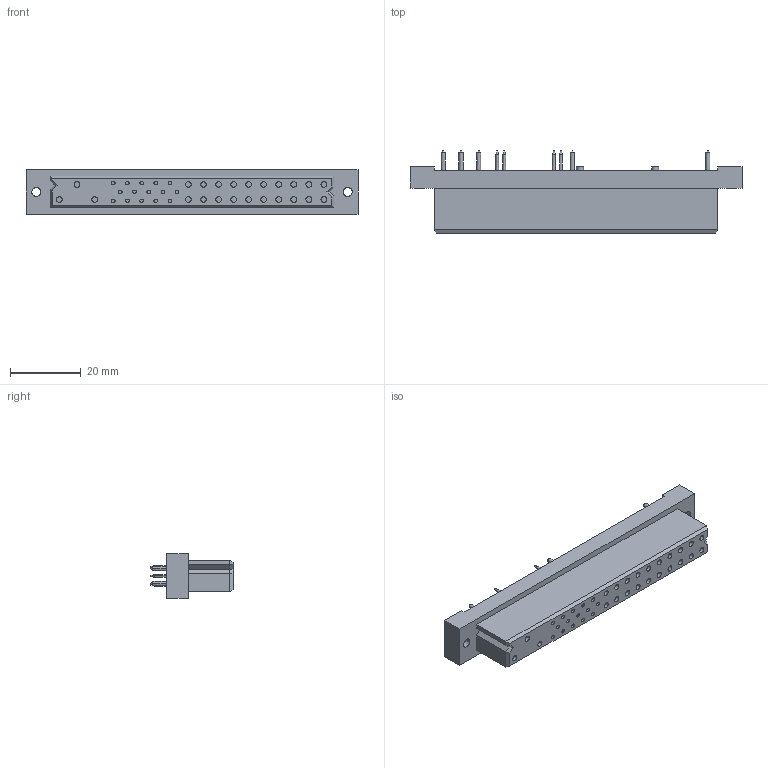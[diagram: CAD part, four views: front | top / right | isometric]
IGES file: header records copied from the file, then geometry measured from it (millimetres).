
Global section: file name: \\usatfca2\prj8\Solid Edge\Solid Edge WIP\NEXTRON\CPCI Power\CPCI FEMALE 38P\3P02-100X-XX_IGS.igs; native system: NX V5.0; preprocessor: UGS NX IGES V5.0; date: 20101213.124434; units: millimetre
Bounding box: 93.82 x 23.2 x 12.54 mm (x, y, z)
Surface area: 7774.7 mm2 (no closed solid volume)
Topology: 0 solids, 0 shells, 229 faces, 1420 edges, 1420 vertices
Faces by surface type: bspline 229
